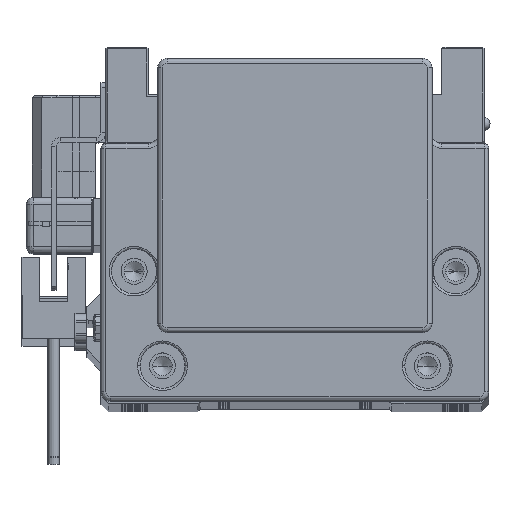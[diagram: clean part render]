
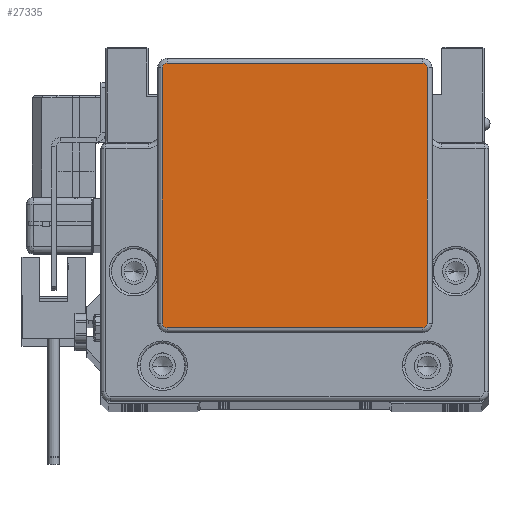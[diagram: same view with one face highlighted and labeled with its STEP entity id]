
A CAD part, top view. The second image highlights one B-rep face of the part: STEP entity #27335.
In plain terms, the highlighted planar face has unit normal (0, 0, 1).
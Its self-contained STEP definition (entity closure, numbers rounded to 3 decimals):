
#715 = DIRECTION ( 'NONE',  ( 0., 0., 1. ) ) ;
#2334 = CIRCLE ( 'NONE', #23002, 1. ) ;
#2688 = EDGE_CURVE ( 'NONE', #19068, #16515, #28040, .T. ) ;
#3042 = AXIS2_PLACEMENT_3D ( 'NONE', #38753, #17389, #25283 ) ;
#3481 = DIRECTION ( 'NONE',  ( 0., -1., 0. ) ) ;
#3928 = CARTESIAN_POINT ( 'NONE',  ( -27., 35.25, 17. ) ) ;
#4534 = CIRCLE ( 'NONE', #32311, 1. ) ;
#4767 = FACE_OUTER_BOUND ( 'NONE', #20917, .T. ) ;
#6492 = CARTESIAN_POINT ( 'NONE',  ( 27., -20.75, 17. ) ) ;
#7441 = CARTESIAN_POINT ( 'NONE',  ( 27., -19.75, 17. ) ) ;
#8754 = VERTEX_POINT ( 'NONE', #52772 ) ;
#9029 = CARTESIAN_POINT ( 'NONE',  ( -28., 34.25, 17. ) ) ;
#9232 = PLANE ( 'NONE',  #3042 ) ;
#9389 = DIRECTION ( 'NONE',  ( 1., 0., 0. ) ) ;
#9665 = CARTESIAN_POINT ( 'NONE',  ( 27., 34.25, 17. ) ) ;
#10110 = CARTESIAN_POINT ( 'NONE',  ( 27., 35.25, 17. ) ) ;
#11365 = VECTOR ( 'NONE', #42301, 1000. ) ;
#12607 = CARTESIAN_POINT ( 'NONE',  ( -27., 34.25, 17. ) ) ;
#12784 = CARTESIAN_POINT ( 'NONE',  ( -28., -19.75, 17. ) ) ;
#13452 = DIRECTION ( 'NONE',  ( 1., 0., 0. ) ) ;
#15147 = VECTOR ( 'NONE', #23629, 1000. ) ;
#15728 = VERTEX_POINT ( 'NONE', #20416 ) ;
#15876 = DIRECTION ( 'NONE',  ( 0., 0., 1. ) ) ;
#16515 = VERTEX_POINT ( 'NONE', #3928 ) ;
#17389 = DIRECTION ( 'NONE',  ( 0., 0., 1. ) ) ;
#17482 = LINE ( 'NONE', #24811, #28368 ) ;
#17851 = VERTEX_POINT ( 'NONE', #9029 ) ;
#18297 = EDGE_CURVE ( 'NONE', #36616, #49628, #54795, .T. ) ;
#18446 = ORIENTED_EDGE ( 'NONE', *, *, #39120, .T. ) ;
#19011 = CARTESIAN_POINT ( 'NONE',  ( 28., -19.75, 17. ) ) ;
#19068 = VERTEX_POINT ( 'NONE', #10110 ) ;
#19160 = ORIENTED_EDGE ( 'NONE', *, *, #2688, .T. ) ;
#19245 = EDGE_CURVE ( 'NONE', #16515, #17851, #31606, .T. ) ;
#20416 = CARTESIAN_POINT ( 'NONE',  ( 28., 34.25, 17. ) ) ;
#20917 = EDGE_LOOP ( 'NONE', ( #19160, #42735, #22289, #52787, #18446, #34320, #27969, #34714 ) ) ;
#21762 = CARTESIAN_POINT ( 'NONE',  ( 28., 34.25, 17. ) ) ;
#22289 = ORIENTED_EDGE ( 'NONE', *, *, #29824, .T. ) ;
#23002 = AXIS2_PLACEMENT_3D ( 'NONE', #33508, #46980, #29017 ) ;
#23629 = DIRECTION ( 'NONE',  ( 1., 0., 0. ) ) ;
#24811 = CARTESIAN_POINT ( 'NONE',  ( -28., -19.75, 17. ) ) ;
#25157 = LINE ( 'NONE', #21762, #11365 ) ;
#25283 = DIRECTION ( 'NONE',  ( 1., 0., 0. ) ) ;
#26172 = AXIS2_PLACEMENT_3D ( 'NONE', #7441, #15876, #27983 ) ;
#27335 = ADVANCED_FACE ( 'NONE', ( #4767 ), #9232, .T. ) ;
#27969 = ORIENTED_EDGE ( 'NONE', *, *, #36951, .T. ) ;
#27983 = DIRECTION ( 'NONE',  ( 1., 0., 0. ) ) ;
#28040 = LINE ( 'NONE', #41239, #31489 ) ;
#28368 = VECTOR ( 'NONE', #3481, 1000. ) ;
#28945 = LINE ( 'NONE', #6492, #15147 ) ;
#29017 = DIRECTION ( 'NONE',  ( 1., 0., 0. ) ) ;
#29824 = EDGE_CURVE ( 'NONE', #17851, #41296, #17482, .T. ) ;
#31489 = VECTOR ( 'NONE', #53293, 1000. ) ;
#31606 = CIRCLE ( 'NONE', #53995, 1. ) ;
#32311 = AXIS2_PLACEMENT_3D ( 'NONE', #9665, #715, #9389 ) ;
#33508 = CARTESIAN_POINT ( 'NONE',  ( -27., -19.75, 17. ) ) ;
#34320 = ORIENTED_EDGE ( 'NONE', *, *, #18297, .T. ) ;
#34714 = ORIENTED_EDGE ( 'NONE', *, *, #41454, .T. ) ;
#34805 = DIRECTION ( 'NONE',  ( 0., 0., 1. ) ) ;
#36134 = EDGE_CURVE ( 'NONE', #41296, #8754, #2334, .T. ) ;
#36616 = VERTEX_POINT ( 'NONE', #41884 ) ;
#36951 = EDGE_CURVE ( 'NONE', #49628, #15728, #25157, .T. ) ;
#38753 = CARTESIAN_POINT ( 'NONE',  ( -27., -19.75, 17. ) ) ;
#39120 = EDGE_CURVE ( 'NONE', #8754, #36616, #28945, .T. ) ;
#41239 = CARTESIAN_POINT ( 'NONE',  ( -27., 35.25, 17. ) ) ;
#41296 = VERTEX_POINT ( 'NONE', #12784 ) ;
#41454 = EDGE_CURVE ( 'NONE', #15728, #19068, #4534, .T. ) ;
#41884 = CARTESIAN_POINT ( 'NONE',  ( 27., -20.75, 17. ) ) ;
#42301 = DIRECTION ( 'NONE',  ( 0., 1., 0. ) ) ;
#42735 = ORIENTED_EDGE ( 'NONE', *, *, #19245, .T. ) ;
#46980 = DIRECTION ( 'NONE',  ( 0., 0., 1. ) ) ;
#49628 = VERTEX_POINT ( 'NONE', #19011 ) ;
#52772 = CARTESIAN_POINT ( 'NONE',  ( -27., -20.75, 17. ) ) ;
#52787 = ORIENTED_EDGE ( 'NONE', *, *, #36134, .T. ) ;
#53293 = DIRECTION ( 'NONE',  ( -1., 0., 0. ) ) ;
#53995 = AXIS2_PLACEMENT_3D ( 'NONE', #12607, #34805, #13452 ) ;
#54795 = CIRCLE ( 'NONE', #26172, 1. ) ;
